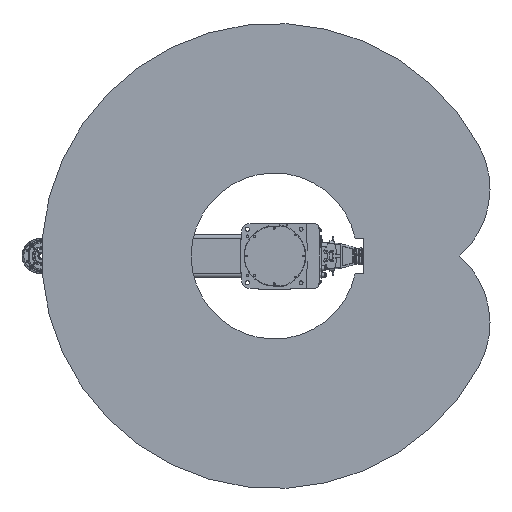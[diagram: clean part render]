
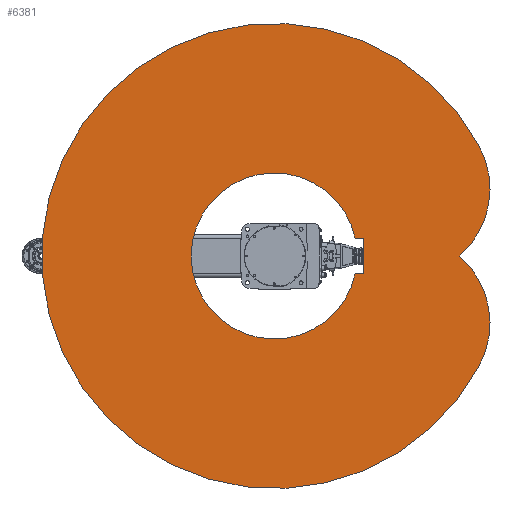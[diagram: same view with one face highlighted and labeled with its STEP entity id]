
A CAD part, front view. The second image highlights one B-rep face of the part: STEP entity #6381.
In plain terms, the highlighted planar face has unit normal (0, -1, 0).
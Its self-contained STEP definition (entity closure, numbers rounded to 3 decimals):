
#6381 = ADVANCED_FACE( '', ( #14410, #14411 ), #14412, .F. );
#14410 = FACE_OUTER_BOUND( '', #24288, .T. );
#14411 = FACE_BOUND( '', #24289, .T. );
#14412 = PLANE( '', #24290 );
#24288 = EDGE_LOOP( '', ( #42469, #42470, #42471 ) );
#24289 = EDGE_LOOP( '', ( #42472, #42473, #42474, #42475 ) );
#24290 = AXIS2_PLACEMENT_3D( '', #42476, #42477, #42478 );
#42469 = ORIENTED_EDGE( '', *, *, #57501, .F. );
#42470 = ORIENTED_EDGE( '', *, *, #57502, .F. );
#42471 = ORIENTED_EDGE( '', *, *, #55942, .F. );
#42472 = ORIENTED_EDGE( '', *, *, #51666, .T. );
#42473 = ORIENTED_EDGE( '', *, *, #55103, .T. );
#42474 = ORIENTED_EDGE( '', *, *, #56407, .T. );
#42475 = ORIENTED_EDGE( '', *, *, #57503, .T. );
#42476 = CARTESIAN_POINT( '', ( 93.894, 0., 176.59 ) );
#42477 = DIRECTION( '', ( 0., 1., 0. ) );
#42478 = DIRECTION( '', ( 0., 0., 1. ) );
#51666 = EDGE_CURVE( '', #61148, #61146, #61149, .T. );
#55103 = EDGE_CURVE( '', #61146, #66715, #66716, .T. );
#55942 = EDGE_CURVE( '', #67922, #67923, #67924, .T. );
#56407 = EDGE_CURVE( '', #66715, #68586, #68587, .T. );
#57501 = EDGE_CURVE( '', #70062, #67922, #70063, .T. );
#57502 = EDGE_CURVE( '', #67923, #70062, #70064, .T. );
#57503 = EDGE_CURVE( '', #68586, #61148, #70065, .T. );
#61146 = VERTEX_POINT( '', #75509 );
#61148 = VERTEX_POINT( '', #75512 );
#61149 = LINE( '', #75513, #75514 );
#66715 = VERTEX_POINT( '', #85035 );
#66716 = LINE( '', #85036, #85037 );
#67922 = VERTEX_POINT( '', #87389 );
#67923 = VERTEX_POINT( '', #87390 );
#67924 = CIRCLE( '', #87391, 650. );
#68586 = VERTEX_POINT( '', #88624 );
#68587 = LINE( '', #88625, #88626 );
#70062 = VERTEX_POINT( '', #91095 );
#70063 = CIRCLE( '', #91096, 250. );
#70064 = CIRCLE( '', #91097, 250. );
#70065 = CIRCLE( '', #91098, 232. );
#75509 = CARTESIAN_POINT( '', ( -50., 0., 250. ) );
#75512 = CARTESIAN_POINT( '', ( -50., 0., 226.548 ) );
#75513 = CARTESIAN_POINT( '', ( -50., 0., 0. ) );
#75514 = VECTOR( '', #95183, 1000. );
#85035 = CARTESIAN_POINT( '', ( 50., 0., 250. ) );
#85036 = CARTESIAN_POINT( '', ( -50., 0., 250. ) );
#85037 = VECTOR( '', #99526, 1000. );
#87389 = CARTESIAN_POINT( '', ( 305.157, 0., 573.916 ) );
#87390 = CARTESIAN_POINT( '', ( -305.157, 0., 573.916 ) );
#87391 = AXIS2_PLACEMENT_3D( '', #100420, #100421, #100422 );
#88624 = CARTESIAN_POINT( '', ( 50., 0., 226.548 ) );
#88625 = CARTESIAN_POINT( '', ( 50., 0., 250. ) );
#88626 = VECTOR( '', #100908, 1000. );
#91095 = CARTESIAN_POINT( '', ( 0., 0., 518.211 ) );
#91096 = AXIS2_PLACEMENT_3D( '', #102151, #102152, #102153 );
#91097 = AXIS2_PLACEMENT_3D( '', #102154, #102155, #102156 );
#91098 = AXIS2_PLACEMENT_3D( '', #102157, #102158, #102159 );
#95183 = DIRECTION( '', ( 0., 0., 1. ) );
#99526 = DIRECTION( '', ( 1., 0., 0. ) );
#100420 = CARTESIAN_POINT( '', ( 0., 0., 0. ) );
#100421 = DIRECTION( '', ( 0., 1., 0. ) );
#100422 = DIRECTION( '', ( 1., 0., 0. ) );
#100908 = DIRECTION( '', ( 0., 0., -1. ) );
#102151 = CARTESIAN_POINT( '', ( 187.789, 0., 353.179 ) );
#102152 = DIRECTION( '', ( 0., 1., 0. ) );
#102153 = DIRECTION( '', ( 1., 0., 0. ) );
#102154 = CARTESIAN_POINT( '', ( -187.789, 0., 353.179 ) );
#102155 = DIRECTION( '', ( 0., 1., 0. ) );
#102156 = DIRECTION( '', ( 1., 0., 0. ) );
#102157 = CARTESIAN_POINT( '', ( 0., 0., 0. ) );
#102158 = DIRECTION( '', ( 0., 1., 0. ) );
#102159 = DIRECTION( '', ( 1., 0., 0. ) );
